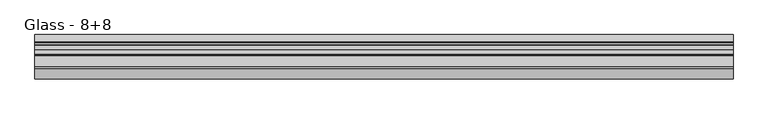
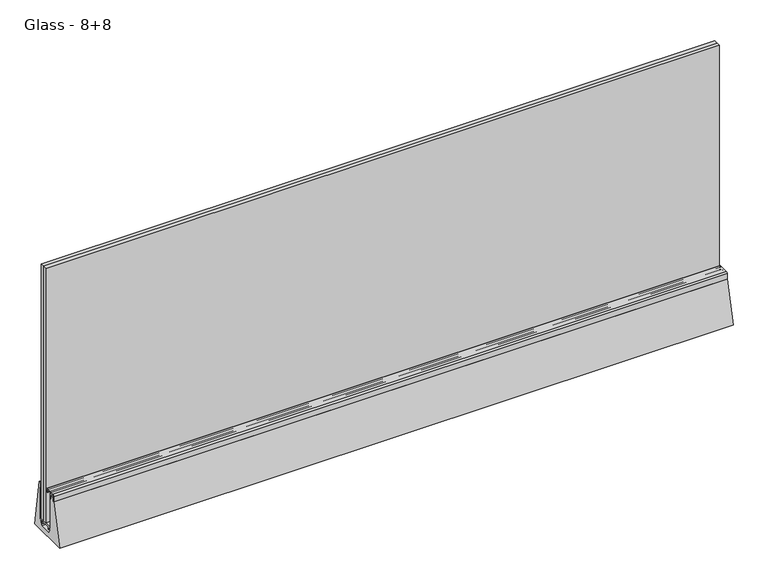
"""IFC4 building model written with IfcOpenShell, lengths in millimetres: proxy geometry, Construction_Slope-Glazing_Faraone_Linea-3-Mini : Glass - 8+8."""

from ifc_helpers import new_model, si_unit, point, frame, frame_2d, origin, place, context, project, spatial, polyline, circle_curve, trimmed, segment, composite_curve, outline, extrude, source, transform, mapped, element, save


def glass_8_8_01085232(model_context):
    return source(origin(), model_context, "Body", "SweptSolid", [
        extrude(outline(polyline([(750.0, 23.8514845), (750.0, 15.9014845), (-750.0, 15.9014845), (-750.0, 23.8514845), (750.0, 23.8514845)])), frame((0.0, 0.0, 26.5097848), z_axis=(0.0, 0.0, 1.0), x_axis=(1.0, 0.0, 0.0)), (0.0, 0.0, 1.0), 600.0),
        extrude(outline(polyline([(750.0, 14.3014845), (750.0, 6.3514845), (-750.0, 6.3514845), (-750.0, 14.3014845), (750.0, 14.3014845)])), frame((0.0, 0.0, 26.5097848), z_axis=(0.0, 0.0, 1.0), x_axis=(1.0, 0.0, 0.0)), (0.0, 0.0, 1.0), 600.0),
        extrude(outline(polyline([(21.0027951, 21.0097848), (22.0027951, 21.0097848), (21.0027951, 17.5097848), (18.5027951, 17.5097848), (18.5027951, 23.5097848), (-3.4544609, 23.5097848), (-3.4544609, 17.5097848), (-5.9544609, 17.5097848), (-6.9542334, 21.0097848), (-5.9544609, 21.0097848), (-5.9544609, 23.5100571), (-8.9999952, 23.5100571), (-8.9999952, 26.5097848), (23.8514845, 26.5097848), (23.8514845, 98.7598945), (26.4955126, 98.7598945), (26.4955126, 23.5097848), (21.0027951, 23.5097848), (21.0027951, 21.0097848)])), frame((-750.0, 0.0, 0.0), z_axis=(1.0, 0.0, 0.0), x_axis=(0.0, 1.0, 0.0)), (0.0, 0.0, 1.0), 1500.0),
        extrude(outline(composite_curve([segment(trimmed(circle_curve(frame_2d((2.3741707, 109.8933639)), 0.5), [point((2.3741707, 110.3933639))], [point((2.8741707, 109.8933639))], False, "CARTESIAN"), True, "CONTINUOUS"), segment(polyline([(2.8741707, 109.8933639), (2.8741707, 107.7847909), (2.080513, 107.7847909), (2.080513, 109.0323883), (1.1824202, 109.0323883)]), True, "CONTINUOUS"), segment(trimmed(circle_curve(frame_2d((1.1824202, 108.5241255)), 0.5082627), [point((1.1824202, 109.0323883))], [point((0.6741575, 108.5241255))], True, "CARTESIAN"), True, "CONTINUOUS"), segment(polyline([(0.6741575, 108.5241255), (0.6741575, 104.040651)]), True, "CONTINUOUS"), segment(trimmed(circle_curve(frame_2d((1.1824202, 104.040651)), 0.5082627), [point((0.6741575, 104.040651))], [point((1.1824202, 103.5323883))], True, "CARTESIAN"), True, "CONTINUOUS"), segment(polyline([(1.1824202, 103.5323883), (2.080513, 103.5323883), (2.080513, 104.7799856), (2.8741707, 104.7799856), (2.8741707, 102.8323883)]), True, "CONTINUOUS"), segment(trimmed(circle_curve(frame_2d((2.3741707, 102.8323883)), 0.5), [point((2.8741707, 102.8323883))], [point((2.3741707, 102.3323883))], False, "CARTESIAN"), True, "CONTINUOUS"), segment(polyline([(2.3741707, 102.3323883), (-0.0258423, 102.3323883)]), True, "CONTINUOUS"), segment(trimmed(circle_curve(frame_2d((-0.0258423, 102.8323885)), 0.5000003), [point((-0.0258423, 102.3323883))], [point((-0.5258425, 102.8323885))], False, "CARTESIAN"), True, "CONTINUOUS"), segment(polyline([(-0.5258425, 102.8323885), (-0.5258425, 108.3933644)]), True, "CONTINUOUS"), segment(trimmed(circle_curve(frame_2d((-1.0258425, 108.3933644)), 0.5), [point((-0.5258425, 108.3933644))], [point((-1.0258425, 108.8933644))], True, "CARTESIAN"), True, "CONTINUOUS"), segment(polyline([(-1.0258425, 108.8933644), (-11.5017337, 108.8933644), (-11.5017337, 95.1380316), (-13.5888351, 95.1380316), (-13.5888351, 100.1818111), (-12.7017337, 100.1818111), (-12.7017337, 108.0933644)]), True, "CONTINUOUS"), segment(trimmed(circle_curve(frame_2d((-12.7017337, 108.4933644)), 0.4), [point((-12.7017337, 108.0933644))], [point((-12.7017337, 108.8933644))], True, "CARTESIAN"), True, "CONTINUOUS"), segment(polyline([(-12.7017337, 108.8933644), (-22.0267873, 108.8933644)]), True, "CONTINUOUS"), segment(trimmed(circle_curve(frame_2d((-22.0267873, 107.3933642)), 1.5000003), [point((-22.0267873, 108.8933644))], [point((-23.5267875, 107.3933642))], True, "CARTESIAN"), True, "CONTINUOUS"), segment(polyline([(-23.5267875, 107.3933642), (-23.5267875, 100.1818111), (-22.6462885, 100.1818111), (-22.6462885, 95.1374302), (-24.7267875, 95.1382255), (-24.7267875, 107.3933639)]), True, "CONTINUOUS"), segment(trimmed(circle_curve(frame_2d((-21.7267875, 107.3933639)), 3.0), [point((-24.7267875, 107.3933639))], [point((-21.7267875, 110.3933639))], False, "CARTESIAN"), True, "CONTINUOUS"), segment(polyline([(-21.7267875, 110.3933639), (2.3741707, 110.3933639)]), True, "CONTINUOUS")], self_intersect=False)), frame((-750.0, 0.0, 0.0), z_axis=(1.0, 0.0, 0.0), x_axis=(0.0, 1.0, 0.0)), (0.0, 0.0, 1.0), 1500.0),
        extrude(outline(composite_curve([segment(polyline([(-47.4987038, 0.0), (-24.7300487, 95.1378278), (-22.4744479, 95.1378278), (-22.4744479, 103.0050058), (-13.7606757, 103.0050058), (-13.7606757, 95.1380316), (-11.4999492, 95.1380316), (-11.4999492, 23.5100853), (-6.5000411, 23.5100853), (-6.5000411, 21.5106384), (-11.5002842, 21.5106384), (-6.3392177, 10.5100582), (21.4008273, 10.5098183), (26.8963028, 21.5099451), (21.4999589, 21.5099451), (21.4999589, 23.5097848), (26.4996909, 23.5097848), (26.4947523, 109.9810078), (30.5938434, 109.9810078)]), True, "CONTINUOUS"), segment(trimmed(circle_curve(frame_2d((30.5938434, 109.0417285)), 0.9392792), [point((30.5938434, 109.9810078))], [point((31.5233799, 109.1766636))], False, "CARTESIAN"), True, "CONTINUOUS"), segment(polyline([(31.5233799, 109.1766636), (47.3718822, 0.0), (-47.4987038, 0.0)]), True, "CONTINUOUS")], self_intersect=False)), frame((-750.0, 0.0, 0.0), z_axis=(1.0, 0.0, 0.0), x_axis=(0.0, 1.0, 0.0)), (0.0, 0.0, 1.0), 1500.0),
    ])


if __name__ == "__main__":
    model = new_model("IFC4")
    model_context = context("Model", 3, world=origin())
    ifc_project = project(units=[si_unit("LENGTHUNIT", "METRE", prefix="MILLI")], contexts=[model_context])
    site = spatial("IfcSite", under=ifc_project)
    building = spatial("IfcBuilding", under=site)
    placement = place(None, origin())
    glass_8_8_shape = glass_8_8_01085232(model_context)
    element("IfcBuildingElementProxy", 1, Name="Construction_Slope-Glazing_Faraone_Linea-3-Mini : Glass - 8+8", ObjectType="Construction_Slope-Glazing_Faraone_Linea-3-Mini : Glass - 8+8", at=placement, inside=building, context=model_context, shape_type="MappedRepresentation", body=[
        mapped(glass_8_8_shape, transform((0.0, 0.0, 0.0), x_axis=(1.0, 0.0, 0.0), y_axis=(0.0, 1.0, 0.0), z_axis=(0.0, 0.0, 1.0))),
    ])
    save(model, "model.ifc")
